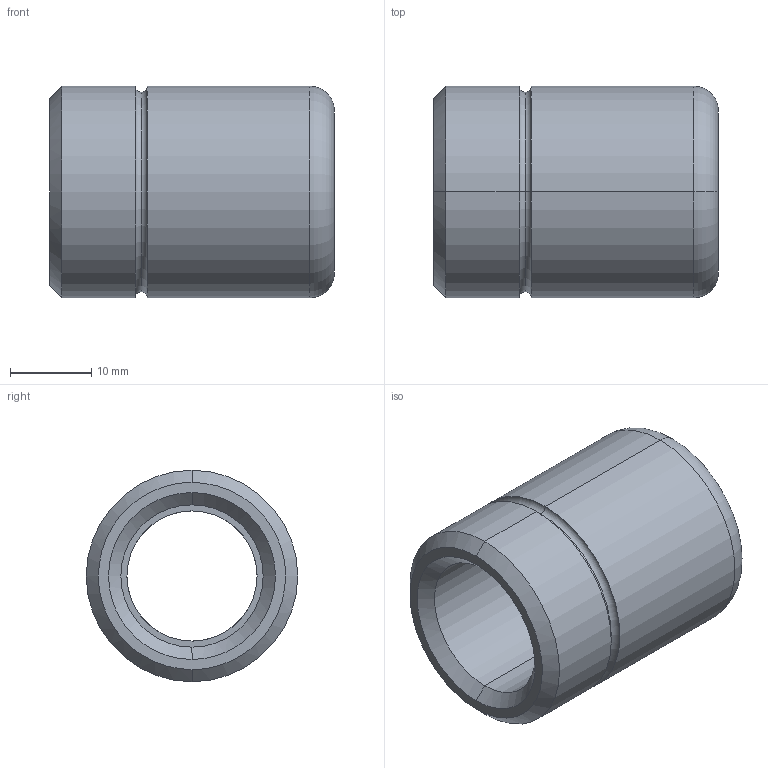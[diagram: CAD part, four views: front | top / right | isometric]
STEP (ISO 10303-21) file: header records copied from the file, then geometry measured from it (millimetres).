
FILE_DESCRIPTION(('CATIA V5 STEP Exchange'),'2;1');
FILE_NAME('C:\Users\Utente\Desktop\IO LAVORO\3D X SITO CF\X SITO\3D files 347\347-16 x 35.stp','2021-01-01T10:06:00+00:00',('none'),('none'),'CATIA Version 5 Release 20 GA (IN-10)','CATIA V5 STEP AP203','none');
FILE_SCHEMA(('CONFIG_CONTROL_DESIGN'));
Length unit declared in the file: millimetre
Products named in the file (1): 347-16 x 35
Bounding box: 35 x 26 x 26 mm (x, y, z)
Volume: 10337.2 mm3; surface area: 5280.1 mm2
Topology: 1 solids, 1 shells, 29 faces, 86 edges, 60 vertices
Faces by surface type: torus 12, cylinder 10, cone 4, plane 3
Entity records: 1154 total; most frequent: CARTESIAN_POINT 344, ORIENTED_EDGE 172, DIRECTION 132, AXIS2_PLACEMENT_3D 90, EDGE_CURVE 86, CIRCLE 60, VERTEX_POINT 60, EDGE_LOOP 32
